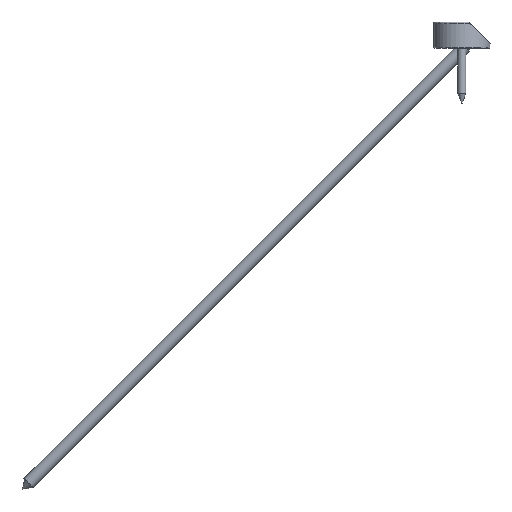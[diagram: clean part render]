
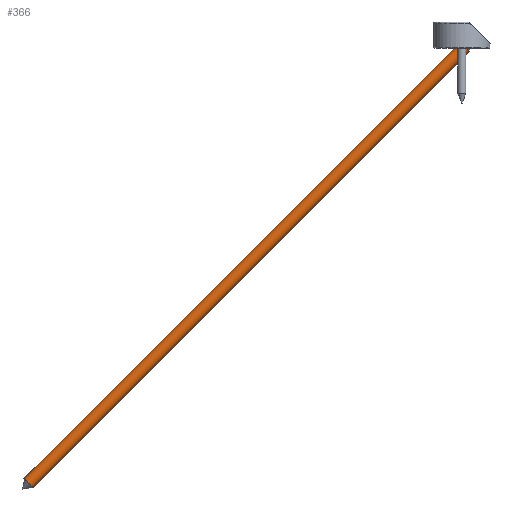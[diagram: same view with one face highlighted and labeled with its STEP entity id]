
A CAD part, left-side view. The second image highlights one B-rep face of the part: STEP entity #366.
In plain terms, the highlighted cylindrical face has radius 4 mm (diameter 8 mm), a full revolution.
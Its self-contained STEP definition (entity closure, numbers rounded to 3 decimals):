
#58=CYLINDRICAL_SURFACE('',#446,4.);
#86=CIRCLE('',#445,4.);
#87=CIRCLE('',#447,4.);
#152=ORIENTED_EDGE('',*,*,#195,.T.);
#153=ORIENTED_EDGE('',*,*,#194,.F.);
#194=EDGE_CURVE('',#225,#225,#86,.T.);
#195=EDGE_CURVE('',#226,#226,#87,.T.);
#225=VERTEX_POINT('',#681);
#226=VERTEX_POINT('',#684);
#277=EDGE_LOOP('',(#152));
#278=EDGE_LOOP('',(#153));
#326=FACE_BOUND('',#277,.T.);
#327=FACE_BOUND('',#278,.T.);
#366=ADVANCED_FACE('',(#326,#327),#58,.T.);
#445=AXIS2_PLACEMENT_3D('',#680,#549,#550);
#446=AXIS2_PLACEMENT_3D('',#682,#551,#552);
#447=AXIS2_PLACEMENT_3D('',#683,#553,#554);
#549=DIRECTION('',(0.,0.,1.));
#550=DIRECTION('',(1.,0.,0.));
#551=DIRECTION('',(0.,0.,1.));
#552=DIRECTION('',(1.,0.,0.));
#553=DIRECTION('',(0.,0.,1.));
#554=DIRECTION('',(1.,0.,0.));
#680=CARTESIAN_POINT('',(0.,0.,36.591));
#681=CARTESIAN_POINT('',(4.,0.,36.591));
#682=CARTESIAN_POINT('',(0.,0.,49.205));
#683=CARTESIAN_POINT('',(0.,0.,-345.052));
#684=CARTESIAN_POINT('',(4.,0.,-345.052));
